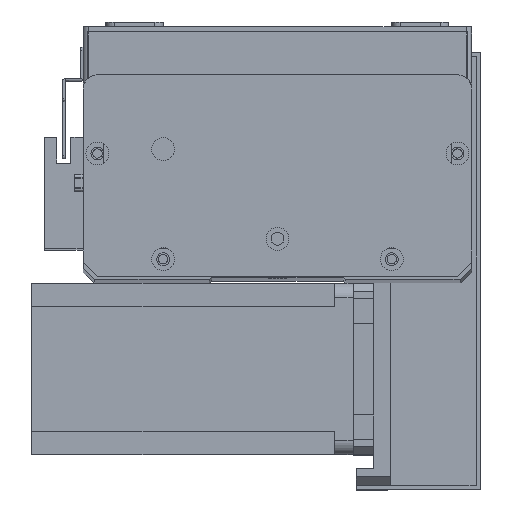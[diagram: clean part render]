
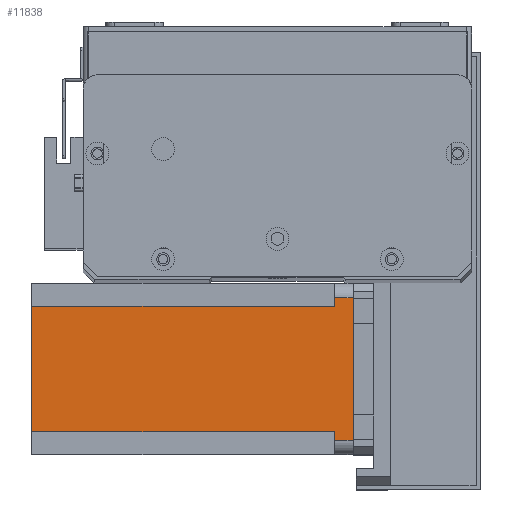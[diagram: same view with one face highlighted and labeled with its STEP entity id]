
A CAD part, top view. The second image highlights one B-rep face of the part: STEP entity #11838.
In plain terms, the highlighted planar face has unit normal (0, 0, 1) as drawn and (0, -1, 0) by its records, which use the part's own axes.
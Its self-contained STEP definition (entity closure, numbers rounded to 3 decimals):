
#933 = VERTEX_POINT ( 'NONE', #19549 ) ;
#1156 = VECTOR ( 'NONE', #26424, 1000. ) ;
#1389 = FACE_OUTER_BOUND ( 'NONE', #9832, .T. ) ;
#1580 = CARTESIAN_POINT ( 'NONE',  ( 8., 0., -112.5 ) ) ;
#2425 = VERTEX_POINT ( 'NONE', #27584 ) ;
#3157 = ORIENTED_EDGE ( 'NONE', *, *, #26096, .F. ) ;
#3705 = CARTESIAN_POINT ( 'NONE',  ( 8., 0., -6.5 ) ) ;
#3834 = VERTEX_POINT ( 'NONE', #4142 ) ;
#4001 = VECTOR ( 'NONE', #13688, 1000. ) ;
#4142 = CARTESIAN_POINT ( 'NONE',  ( 52., 0., -6.5 ) ) ;
#4730 = VERTEX_POINT ( 'NONE', #10994 ) ;
#4754 = DIRECTION ( 'NONE',  ( 0., 0., -1. ) ) ;
#5729 = LINE ( 'NONE', #11209, #11025 ) ;
#8475 = CARTESIAN_POINT ( 'NONE',  ( 8., 0., -6.5 ) ) ;
#8532 = VERTEX_POINT ( 'NONE', #12590 ) ;
#8548 = DIRECTION ( 'NONE',  ( 0., 0., -1. ) ) ;
#8577 = DIRECTION ( 'NONE',  ( 0., -1., 0. ) ) ;
#8835 = CARTESIAN_POINT ( 'NONE',  ( 0., 0., -112.5 ) ) ;
#8843 = PLANE ( 'NONE',  #19284 ) ;
#9832 = EDGE_LOOP ( 'NONE', ( #16161, #13489, #3157, #22358, #12110, #10001, #27549, #16603 ) ) ;
#10001 = ORIENTED_EDGE ( 'NONE', *, *, #22339, .F. ) ;
#10615 = LINE ( 'NONE', #24132, #21697 ) ;
#10910 = VERTEX_POINT ( 'NONE', #1580 ) ;
#10994 = CARTESIAN_POINT ( 'NONE',  ( 55., 0., 0. ) ) ;
#11021 = CARTESIAN_POINT ( 'NONE',  ( 0., 0., 0. ) ) ;
#11025 = VECTOR ( 'NONE', #24406, 1000. ) ;
#11085 = CARTESIAN_POINT ( 'NONE',  ( 5., 0., 0. ) ) ;
#11209 = CARTESIAN_POINT ( 'NONE',  ( 52., 0., -112.5 ) ) ;
#11838 = ADVANCED_FACE ( 'NONE', ( #1389 ), #8843, .T. ) ;
#12110 = ORIENTED_EDGE ( 'NONE', *, *, #21788, .F. ) ;
#12590 = CARTESIAN_POINT ( 'NONE',  ( 55., 0., -6.5 ) ) ;
#13275 = VECTOR ( 'NONE', #4754, 1000. ) ;
#13489 = ORIENTED_EDGE ( 'NONE', *, *, #16531, .T. ) ;
#13688 = DIRECTION ( 'NONE',  ( 1., 0., 0. ) ) ;
#13710 = CARTESIAN_POINT ( 'NONE',  ( 52., 0., -6.5 ) ) ;
#13947 = VERTEX_POINT ( 'NONE', #11085 ) ;
#14491 = CARTESIAN_POINT ( 'NONE',  ( 0., 0., -112.5 ) ) ;
#15106 = EDGE_CURVE ( 'NONE', #3834, #8532, #15856, .T. ) ;
#15137 = CARTESIAN_POINT ( 'NONE',  ( 8., 0., -112.5 ) ) ;
#15380 = DIRECTION ( 'NONE',  ( 0., 0., 1. ) ) ;
#15402 = VECTOR ( 'NONE', #19261, 1000. ) ;
#15856 = LINE ( 'NONE', #13710, #4001 ) ;
#16161 = ORIENTED_EDGE ( 'NONE', *, *, #15106, .T. ) ;
#16531 = EDGE_CURVE ( 'NONE', #8532, #4730, #10615, .T. ) ;
#16603 = ORIENTED_EDGE ( 'NONE', *, *, #26157, .F. ) ;
#17633 = LINE ( 'NONE', #14491, #27932 ) ;
#19151 = VECTOR ( 'NONE', #19513, 1000. ) ;
#19261 = DIRECTION ( 'NONE',  ( -1., 0., 0. ) ) ;
#19284 = AXIS2_PLACEMENT_3D ( 'NONE', #8835, #8577, #8548 ) ;
#19484 = EDGE_CURVE ( 'NONE', #13947, #933, #23609, .T. ) ;
#19513 = DIRECTION ( 'NONE',  ( 0., 0., 1. ) ) ;
#19549 = CARTESIAN_POINT ( 'NONE',  ( 5., 0., -6.5 ) ) ;
#19639 = LINE ( 'NONE', #11021, #1156 ) ;
#20319 = CARTESIAN_POINT ( 'NONE',  ( 5., 0., -112.5 ) ) ;
#21697 = VECTOR ( 'NONE', #15380, 1000. ) ;
#21788 = EDGE_CURVE ( 'NONE', #24135, #933, #26396, .T. ) ;
#22339 = EDGE_CURVE ( 'NONE', #10910, #24135, #25004, .T. ) ;
#22358 = ORIENTED_EDGE ( 'NONE', *, *, #19484, .T. ) ;
#23609 = LINE ( 'NONE', #20319, #13275 ) ;
#24132 = CARTESIAN_POINT ( 'NONE',  ( 55., 0., -112.5 ) ) ;
#24135 = VERTEX_POINT ( 'NONE', #8475 ) ;
#24406 = DIRECTION ( 'NONE',  ( 0., 0., -1. ) ) ;
#25004 = LINE ( 'NONE', #15137, #19151 ) ;
#25231 = EDGE_CURVE ( 'NONE', #10910, #2425, #17633, .T. ) ;
#26096 = EDGE_CURVE ( 'NONE', #13947, #4730, #19639, .T. ) ;
#26157 = EDGE_CURVE ( 'NONE', #3834, #2425, #5729, .T. ) ;
#26396 = LINE ( 'NONE', #3705, #15402 ) ;
#26424 = DIRECTION ( 'NONE',  ( 1., 0., 0. ) ) ;
#27549 = ORIENTED_EDGE ( 'NONE', *, *, #25231, .T. ) ;
#27584 = CARTESIAN_POINT ( 'NONE',  ( 52., 0., -112.5 ) ) ;
#27602 = DIRECTION ( 'NONE',  ( 1., 0., 0. ) ) ;
#27932 = VECTOR ( 'NONE', #27602, 1000. ) ;
